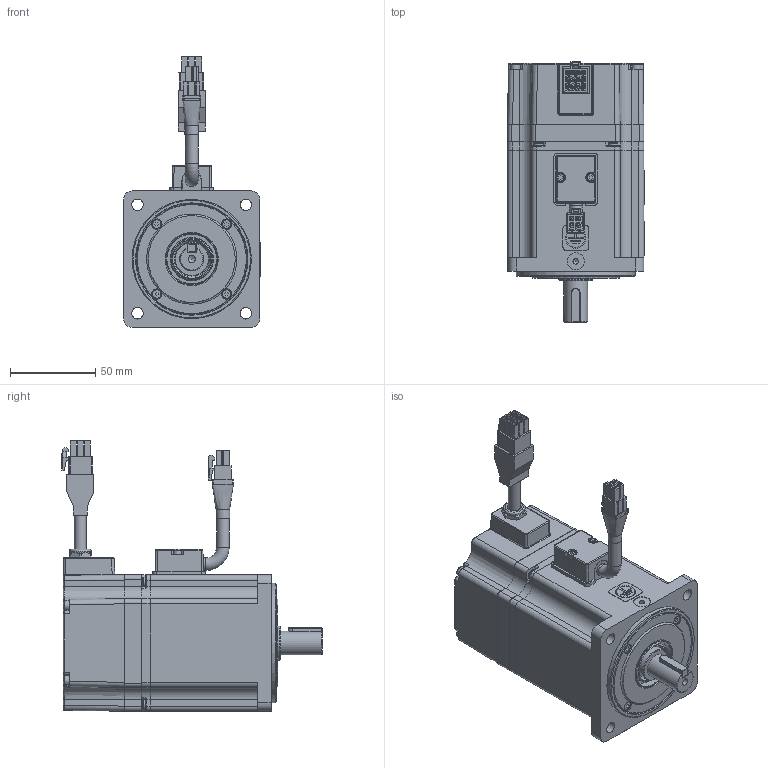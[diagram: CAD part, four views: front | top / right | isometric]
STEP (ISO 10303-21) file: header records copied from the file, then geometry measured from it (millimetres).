
FILE_DESCRIPTION( ( 'Unknown' ), '1' );
FILE_NAME( 'X:/05_Progetto TCE/010-TCE motor drawings/TCE80/vuoti/TCE80 3A XX 3 A1 0 D0.stp', 'Unknown', ( 'Unknown' ), ( 'Unknown' ), 'PSStep 17.0.49', 'Unknown', ' ' );
FILE_SCHEMA( ( 'AUTOMOTIVE_DESIGN { 1 0 10303 214 1 1 1 1 }' ) );
Length unit declared in the file: millimetre
Products named in the file (56): 003108015151_curva; 003303000375; 005453000452_D7,4; U5120001_vuoto; 005911000598; 001799000503; 003120002504; 007102000214; 001107000619; 003303000025; 003711000103; 005603001004; cavo cablato x campana TCE - SICK; Assem1; 005204000001; 005204000002; 005008000690-oa0; 005008000690-oa1; 005008000690-oa2; 005008000740-oa3; 003103001502; 005007000122; 005119001502; 005123000690; 005123000800; 005911000182; 005911003621; 005204000003; 003251022002; 003155000303; 003155002051; 005911000192; 005113000362; 005008000908-oa4; 003003050087
Assembly tree (69 placements, depth 4):
  Assem1
    005204000001
    005204000002
    005008000690-oa0
    005008000690-oa1
    005008000690-oa2
    005008000740-oa3
    003103001502
    005007000122
    005119001502
    005119001502
    005123000690
    005123000690
    005123000690
    005123000690
    005123000690
    005123000690
    005123000690
    005123000690
    005123000800
    005123000800
    005123000800
    005123000800
    005123000800
    005123000800
    005123000800
    005123000800
    005123000800
    005911000182  x4
    005911003621  x8
    005204000003
    003251022002
    003155000303
    003155002051
    005911000192  x4
    005113000362
    005008000908-oa4
    003003050087
    007102000214
      001107000619
      003303000025
      003711000103
      005603001004
      cavo cablato x campana TCE - SICK
      cavo cablato x campana TCE - SICK
    U5120001_vuoto
      005911000598  x2
      001799000503
      003120002504
      003120002504
      003108015151_curva
        003303000375
        005453000452_D7,4
        003108015151_curva
        003108015151_curva
        003108015151_curva
Bounding box: 80.3 x 152.9 x 158.7 mm (x, y, z)
Volume: 311244 mm3; surface area: 189203 mm2
Topology: 66 solids, 66 shells, 2269 faces, 5586 edges, 3561 vertices
Faces by surface type: plane 1300, cylinder 487, torus 143, bspline 124, cone 117, sphere 61, extrusion 37
Full cylindrical faces by diameter (mm): 1 x1, 2.013 x3, 2.459 x30, 2.5 x2, 2.6 x9, 2.7 x2, 3 x16, 3.242 x4, 3.5 x20, 4.134 x2, 4.7 x2, 5.5 x17, 6.1 x1, 6.8 x1, 7 x2, 7.1 x1, 7.2 x1, 7.25 x1, 7.4 x2, 7.41 x1, 8.01 x1, 10 x2, 10.3 x2, 10.647 x1, 11 x1, 12 x3, 12.7 x1, 14 x1, 14.99 x1, 15 x2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
Entity records: 85445 total; most frequent: CARTESIAN_POINT 21742, DIRECTION 9553, ORIENTED_EDGE 9374, EDGE_CURVE 4687, AXIS2_PLACEMENT_3D 3263, VERTEX_POINT 3213, VECTOR 3027, LINE 2990
